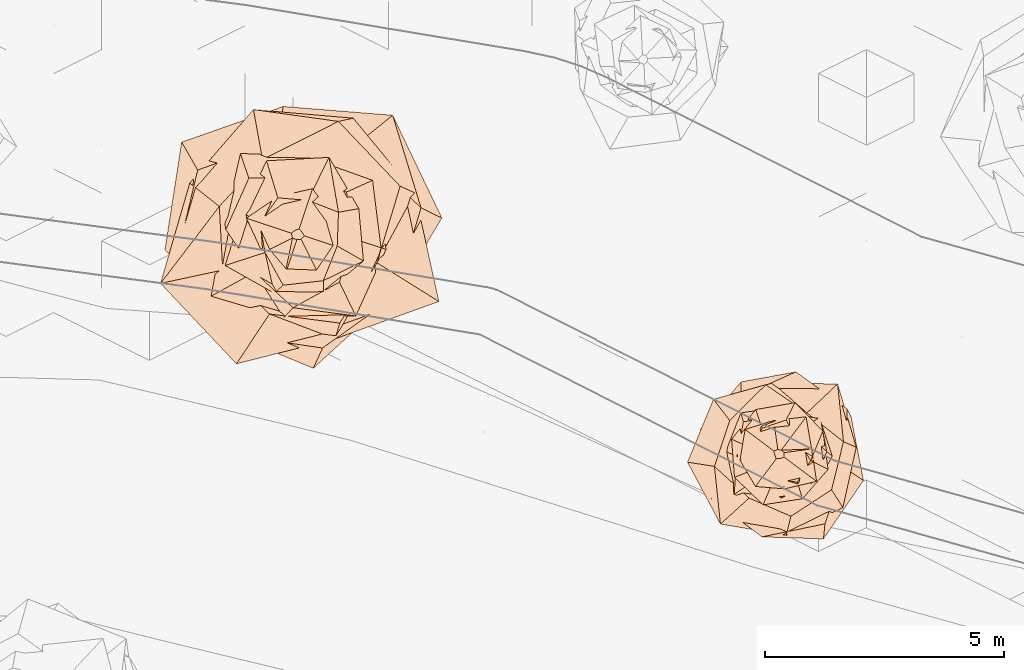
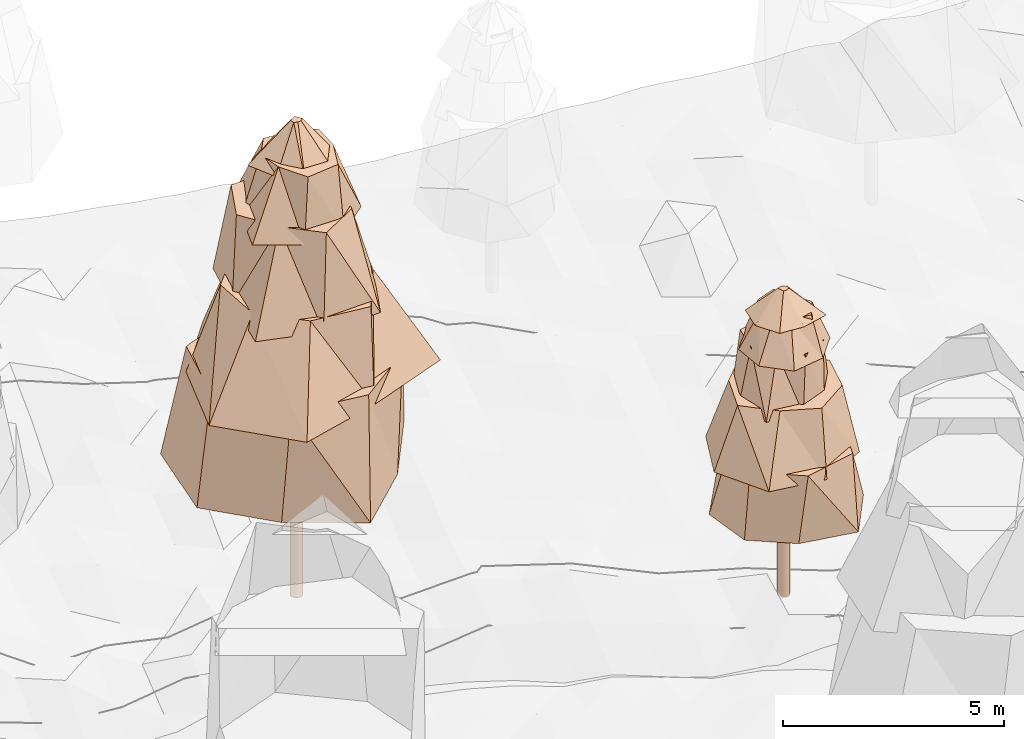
# Not in any storey, part 52 of 88: 2 geographic elements.
"""IFC4 model written with IfcOpenShell, lengths in metres."""

from ifc_helpers import new_model, si_unit, frame, origin_with_axes, place, context, subcontext, project, spatial, circle, extrude, faceted_brep, element, save


model = new_model("IFC4")

# Units and contexts
model_context = context("Model", 3, precision=1e-05, world=origin_with_axes())
body_context = subcontext(model_context, "Body", "Model", "MODEL_VIEW")
ifc_project = project(units=[si_unit("LENGTHUNIT", "METRE"), si_unit("AREAUNIT", "SQUARE_METRE"), si_unit("VOLUMEUNIT", "CUBIC_METRE"), si_unit("PLANEANGLEUNIT", "RADIAN")], contexts=[model_context])

# Sites
site_1_placement = place(None, origin_with_axes())
site_1 = spatial("IfcSite", under=ifc_project, at=site_1_placement, Name="CH907857693633", CompositionType="ELEMENT")
site_2_placement = place(None, origin_with_axes())
site_2 = spatial("IfcSite", under=site_1, at=site_2_placement, Name="Simulated_forest", CompositionType="ELEMENT")

# Geographic elements
geographic_element_1_placement = place(None, frame((134.107037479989, 99.13216391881, 2.78985595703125), z_axis=(0.0, 0.0, 1.0), x_axis=(1.0, 0.0, 0.0)))
element("IfcGeographicElement", 1, at=geographic_element_1_placement, inside=site_2, Name="Tree_SIMULATED_WOODED_AREA", ObjectType="VEGETATION", PredefinedType="USERDEFINED", context=body_context, shape_type="Brep", body=[
    extrude(circle(Radius=0.15), origin_with_axes(), (0.0, 0.0, 1.0), 3.54968005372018),
    faceted_brep([(1.80991687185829, -1.438109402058, 3.54968005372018), (0.320244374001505, -2.7975826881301, 3.54968005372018), (-1.41430292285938, -1.7799554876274, 3.54968005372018), (-2.78111739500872, -0.318359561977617, 3.54968005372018), (-2.43148507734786, 1.93199014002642, 3.54968005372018), (-0.306615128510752, 2.6785206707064, 3.54968005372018), (1.98175177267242, 2.49411203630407, 3.54968005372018), (3.01124691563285, 0.344702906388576, 3.54968005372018), (2.57570863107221, 0.559707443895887, 6.76132153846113), (1.19802192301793, 1.86324155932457, 6.76132153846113), (-0.42406961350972, 1.95151909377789, 6.76132153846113), (-2.09703816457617, 1.34834781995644, 6.76132153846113), (-2.54949465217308, -0.55401108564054, 6.76132153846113), (-1.35261639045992, -2.10367692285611, 6.76132153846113), (0.515813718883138, -2.37371480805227, 6.76132153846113), (2.02353795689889, -1.30108885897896, 6.76132153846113), (3.01124691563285, 0.344702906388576, 3.54968005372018), (1.98175177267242, 2.49411203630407, 3.54968005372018), (1.19802192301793, 1.86324155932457, 6.76132153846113), (2.57570863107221, 0.559707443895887, 6.76132153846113), (1.98175177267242, 2.49411203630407, 3.54968005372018), (-0.306615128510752, 2.6785206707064, 3.54968005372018), (-0.42406961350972, 1.95151909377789, 6.76132153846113), (1.19802192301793, 1.86324155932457, 6.76132153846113), (-0.306615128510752, 2.6785206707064, 3.54968005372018), (-2.43148507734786, 1.93199014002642, 3.54968005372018), (-2.09703816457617, 1.34834781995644, 6.76132153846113), (-0.42406961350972, 1.95151909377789, 6.76132153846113), (-2.43148507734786, 1.93199014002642, 3.54968005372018), (-2.78111739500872, -0.318359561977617, 3.54968005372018), (-2.54949465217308, -0.55401108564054, 6.76132153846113), (-2.09703816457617, 1.34834781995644, 6.76132153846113), (-2.78111739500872, -0.318359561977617, 3.54968005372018), (-1.41430292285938, -1.7799554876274, 3.54968005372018), (-1.35261639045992, -2.10367692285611, 6.76132153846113), (-2.54949465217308, -0.55401108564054, 6.76132153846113), (-1.41430292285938, -1.7799554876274, 3.54968005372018), (0.320244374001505, -2.7975826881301, 3.54968005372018), (0.515813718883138, -2.37371480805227, 6.76132153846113), (-1.35261639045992, -2.10367692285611, 6.76132153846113), (0.320244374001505, -2.7975826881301, 3.54968005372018), (1.80991687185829, -1.438109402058, 3.54968005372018), (2.02353795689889, -1.30108885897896, 6.76132153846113), (0.515813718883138, -2.37371480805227, 6.76132153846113), (1.80991687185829, -1.438109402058, 3.54968005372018), (3.01124691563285, 0.344702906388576, 3.54968005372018), (2.57570863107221, 0.559707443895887, 6.76132153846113), (2.02353795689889, -1.30108885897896, 6.76132153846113)], [[[0, 1, 2, 3, 4, 5, 6, 7]], [[8, 9, 10, 11, 12, 13, 14, 15]], [[16, 17, 18, 19]], [[20, 21, 22, 23]], [[24, 25, 26, 27]], [[28, 29, 30, 31]], [[32, 33, 34, 35]], [[36, 37, 38, 39]], [[40, 41, 42, 43]], [[44, 45, 46, 47]]]),
    faceted_brep([(2.94951133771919, -1.40194936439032, 6.27957531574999), (0.776015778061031, -2.18201417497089, 6.27957531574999), (-1.28594503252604, -2.70545395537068, 6.27957531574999), (-2.87335169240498, -1.02188440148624, 6.27957531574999), (-2.26262226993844, 1.07546013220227, 6.27957531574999), (-0.929566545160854, 2.61377079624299, 6.27957531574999), (1.15680739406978, 2.43376587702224, 6.27957531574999), (2.44817940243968, 0.870675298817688, 6.27957531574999), (2.13819836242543, 1.01104583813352, 8.75479832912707), (0.846936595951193, 2.36632585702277, 8.75479832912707), (-0.741204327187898, 1.56752722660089, 8.75479832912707), (-1.6446025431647, 0.588623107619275, 8.75479832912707), (-1.57247517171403, -0.743543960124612, 8.75479832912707), (-0.59488731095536, -1.6621046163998, 8.75479832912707), (0.876298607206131, -1.8532297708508, 8.75479832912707), (1.65452095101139, -0.592173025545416, 8.75479832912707), (2.44817940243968, 0.870675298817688, 6.27957531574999), (1.15680739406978, 2.43376587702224, 6.27957531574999), (0.846936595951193, 2.36632585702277, 8.75479832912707), (2.13819836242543, 1.01104583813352, 8.75479832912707), (1.15680739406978, 2.43376587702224, 6.27957531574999), (-0.929566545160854, 2.61377079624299, 6.27957531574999), (-0.741204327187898, 1.56752722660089, 8.75479832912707), (0.846936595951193, 2.36632585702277, 8.75479832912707), (-0.929566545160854, 2.61377079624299, 6.27957531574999), (-2.26262226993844, 1.07546013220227, 6.27957531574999), (-1.6446025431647, 0.588623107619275, 8.75479832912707), (-0.741204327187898, 1.56752722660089, 8.75479832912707), (-2.26262226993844, 1.07546013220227, 6.27957531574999), (-2.87335169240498, -1.02188440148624, 6.27957531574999), (-1.57247517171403, -0.743543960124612, 8.75479832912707), (-1.6446025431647, 0.588623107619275, 8.75479832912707), (-2.87335169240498, -1.02188440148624, 6.27957531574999), (-1.28594503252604, -2.70545395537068, 6.27957531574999), (-0.59488731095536, -1.6621046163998, 8.75479832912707), (-1.57247517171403, -0.743543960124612, 8.75479832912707), (-1.28594503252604, -2.70545395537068, 6.27957531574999), (0.776015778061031, -2.18201417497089, 6.27957531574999), (0.876298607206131, -1.8532297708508, 8.75479832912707), (-0.59488731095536, -1.6621046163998, 8.75479832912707), (0.776015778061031, -2.18201417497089, 6.27957531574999), (2.94951133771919, -1.40194936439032, 6.27957531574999), (1.65452095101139, -0.592173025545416, 8.75479832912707), (0.876298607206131, -1.8532297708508, 8.75479832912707), (2.94951133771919, -1.40194936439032, 6.27957531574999), (2.44817940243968, 0.870675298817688, 6.27957531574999), (2.13819836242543, 1.01104583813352, 8.75479832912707), (1.65452095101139, -0.592173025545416, 8.75479832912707)], [[[0, 1, 2, 3, 4, 5, 6, 7]], [[8, 9, 10, 11, 12, 13, 14, 15]], [[16, 17, 18, 19]], [[20, 21, 22, 23]], [[24, 25, 26, 27]], [[28, 29, 30, 31]], [[32, 33, 34, 35]], [[36, 37, 38, 39]], [[40, 41, 42, 43]], [[44, 45, 46, 47]]]),
    faceted_brep([(1.84311150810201, -0.312033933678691, 8.38351487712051), (1.21054277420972, -1.70396052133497, 8.38351487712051), (-0.295015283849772, -1.74258632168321, 8.38351487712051), (-1.81625968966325, -1.29032334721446, 8.38351487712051), (-1.53136500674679, 0.259256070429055, 8.38351487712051), (-1.20228956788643, 1.69234330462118, 8.38351487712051), (0.282036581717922, 1.66592416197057, 8.38351487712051), (1.65490310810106, 1.17569097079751, 8.38351487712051), (1.017979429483, 0.888686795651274, 10.9379206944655), (0.0823678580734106, 1.21467100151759, 10.9379206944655), (-1.02753301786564, 1.17702601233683, 10.9379206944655), (-1.50854625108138, 0.102295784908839, 10.9379206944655), (-0.902844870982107, -0.788175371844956, 10.9379206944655), (-0.103849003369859, -1.5314514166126, 10.9379206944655), (0.869847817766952, -0.996399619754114, 10.9379206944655), (1.12673176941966, -0.0764046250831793, 10.9379206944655), (1.65490310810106, 1.17569097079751, 8.38351487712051), (0.282036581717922, 1.66592416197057, 8.38351487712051), (0.0823678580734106, 1.21467100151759, 10.9379206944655), (1.017979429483, 0.888686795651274, 10.9379206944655), (0.282036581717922, 1.66592416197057, 8.38351487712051), (-1.20228956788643, 1.69234330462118, 8.38351487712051), (-1.02753301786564, 1.17702601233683, 10.9379206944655), (0.0823678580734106, 1.21467100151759, 10.9379206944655), (-1.20228956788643, 1.69234330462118, 8.38351487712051), (-1.53136500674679, 0.259256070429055, 8.38351487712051), (-1.50854625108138, 0.102295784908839, 10.9379206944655), (-1.02753301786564, 1.17702601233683, 10.9379206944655), (-1.53136500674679, 0.259256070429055, 8.38351487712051), (-1.81625968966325, -1.29032334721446, 8.38351487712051), (-0.902844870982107, -0.788175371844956, 10.9379206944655), (-1.50854625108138, 0.102295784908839, 10.9379206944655), (-1.81625968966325, -1.29032334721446, 8.38351487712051), (-0.295015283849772, -1.74258632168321, 8.38351487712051), (-0.103849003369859, -1.5314514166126, 10.9379206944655), (-0.902844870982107, -0.788175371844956, 10.9379206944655), (-0.295015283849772, -1.74258632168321, 8.38351487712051), (1.21054277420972, -1.70396052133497, 8.38351487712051), (0.869847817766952, -0.996399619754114, 10.9379206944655), (-0.103849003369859, -1.5314514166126, 10.9379206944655), (1.21054277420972, -1.70396052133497, 8.38351487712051), (1.84311150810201, -0.312033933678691, 8.38351487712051), (1.12673176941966, -0.0764046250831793, 10.9379206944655), (0.869847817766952, -0.996399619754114, 10.9379206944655), (1.84311150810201, -0.312033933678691, 8.38351487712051), (1.65490310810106, 1.17569097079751, 8.38351487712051), (1.017979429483, 0.888686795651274, 10.9379206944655), (1.12673176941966, -0.0764046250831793, 10.9379206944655)], [[[0, 1, 2, 3, 4, 5, 6, 7]], [[8, 9, 10, 11, 12, 13, 14, 15]], [[16, 17, 18, 19]], [[20, 21, 22, 23]], [[24, 25, 26, 27]], [[28, 29, 30, 31]], [[32, 33, 34, 35]], [[36, 37, 38, 39]], [[40, 41, 42, 43]], [[44, 45, 46, 47]]]),
    faceted_brep([(1.37094495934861, -0.553165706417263, 10.5547598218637), (0.530706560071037, -1.24867211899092, 10.5547598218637), (-0.494922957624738, -1.22659833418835, 10.5547598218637), (-1.52353570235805, -0.647528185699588, 10.5547598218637), (-1.16741492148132, 0.471042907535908, 10.5547598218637), (-0.655684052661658, 1.54272522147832, 10.5547598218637), (0.650977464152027, 1.61335791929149, 10.5547598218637), (1.27377530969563, 0.541375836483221, 10.5547598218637), (0.848935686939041, 0.465855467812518, 12.2618209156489), (0.208416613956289, 0.715318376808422, 12.2618209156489), (-0.420722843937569, 0.766689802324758, 12.2618209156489), (-0.799356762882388, 0.232902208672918, 12.2618209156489), (-0.687428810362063, -0.377228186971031, 12.2618209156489), (-0.308980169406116, -1.06046820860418, 12.2618209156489), (0.530260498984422, -0.966301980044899, 12.2618209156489), (0.822243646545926, -0.23957057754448, 12.2618209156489), (1.27377530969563, 0.541375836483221, 10.5547598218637), (0.650977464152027, 1.61335791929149, 10.5547598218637), (0.208416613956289, 0.715318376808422, 12.2618209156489), (0.848935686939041, 0.465855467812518, 12.2618209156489), (0.650977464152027, 1.61335791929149, 10.5547598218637), (-0.655684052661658, 1.54272522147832, 10.5547598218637), (-0.420722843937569, 0.766689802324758, 12.2618209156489), (0.208416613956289, 0.715318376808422, 12.2618209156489), (-0.655684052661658, 1.54272522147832, 10.5547598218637), (-1.16741492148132, 0.471042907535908, 10.5547598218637), (-0.799356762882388, 0.232902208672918, 12.2618209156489), (-0.420722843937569, 0.766689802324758, 12.2618209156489), (-1.16741492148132, 0.471042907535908, 10.5547598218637), (-1.52353570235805, -0.647528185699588, 10.5547598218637), (-0.687428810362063, -0.377228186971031, 12.2618209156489), (-0.799356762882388, 0.232902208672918, 12.2618209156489), (-1.52353570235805, -0.647528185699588, 10.5547598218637), (-0.494922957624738, -1.22659833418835, 10.5547598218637), (-0.308980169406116, -1.06046820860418, 12.2618209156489), (-0.687428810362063, -0.377228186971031, 12.2618209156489), (-0.494922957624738, -1.22659833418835, 10.5547598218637), (0.530706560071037, -1.24867211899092, 10.5547598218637), (0.530260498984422, -0.966301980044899, 12.2618209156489), (-0.308980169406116, -1.06046820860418, 12.2618209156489), (0.530706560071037, -1.24867211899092, 10.5547598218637), (1.37094495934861, -0.553165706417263, 10.5547598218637), (0.822243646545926, -0.23957057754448, 12.2618209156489), (0.530260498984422, -0.966301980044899, 12.2618209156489), (1.37094495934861, -0.553165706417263, 10.5547598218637), (1.27377530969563, 0.541375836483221, 10.5547598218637), (0.848935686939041, 0.465855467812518, 12.2618209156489), (0.822243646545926, -0.23957057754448, 12.2618209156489)], [[[0, 1, 2, 3, 4, 5, 6, 7]], [[8, 9, 10, 11, 12, 13, 14, 15]], [[16, 17, 18, 19]], [[20, 21, 22, 23]], [[24, 25, 26, 27]], [[28, 29, 30, 31]], [[32, 33, 34, 35]], [[36, 37, 38, 39]], [[40, 41, 42, 43]], [[44, 45, 46, 47]]]),
    faceted_brep([(0.921359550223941, -0.292960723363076, 12.0057617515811), (0.486850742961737, -0.940792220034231, 12.0057617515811), (-0.289633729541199, -0.910896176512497, 12.0057617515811), (-0.741552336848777, -0.383746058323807, 12.0057617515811), (-1.07746825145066, 0.342597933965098, 12.0057617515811), (-0.411624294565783, 0.795424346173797, 12.0057617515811), (0.30486201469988, 0.958789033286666, 12.0057617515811), (0.727589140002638, 0.376520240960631, 12.0057617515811), (0.0820022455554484, 0.0534376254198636, 13.1028937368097), (0.0258546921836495, 0.122590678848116, 13.1028937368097), (-0.0563538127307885, 0.0864772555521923, 13.1028937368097), (-0.138791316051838, 0.0292714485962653, 13.1028937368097), (-0.112842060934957, -0.0735347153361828, 13.1028937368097), (-0.0229370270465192, -0.108756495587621, 13.1028937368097), (0.0644637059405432, -0.0989222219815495, 13.1028937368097), (0.138238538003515, -0.029154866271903, 13.1028937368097), (0.727589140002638, 0.376520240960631, 12.0057617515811), (0.30486201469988, 0.958789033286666, 12.0057617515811), (0.0258546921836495, 0.122590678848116, 13.1028937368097), (0.0820022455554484, 0.0534376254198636, 13.1028937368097), (0.30486201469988, 0.958789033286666, 12.0057617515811), (-0.411624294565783, 0.795424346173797, 12.0057617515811), (-0.0563538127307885, 0.0864772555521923, 13.1028937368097), (0.0258546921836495, 0.122590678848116, 13.1028937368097), (-0.411624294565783, 0.795424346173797, 12.0057617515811), (-1.07746825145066, 0.342597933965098, 12.0057617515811), (-0.138791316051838, 0.0292714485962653, 13.1028937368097), (-0.0563538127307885, 0.0864772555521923, 13.1028937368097), (-1.07746825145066, 0.342597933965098, 12.0057617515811), (-0.741552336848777, -0.383746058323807, 12.0057617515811), (-0.112842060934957, -0.0735347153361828, 13.1028937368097), (-0.138791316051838, 0.0292714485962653, 13.1028937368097), (-0.741552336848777, -0.383746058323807, 12.0057617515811), (-0.289633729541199, -0.910896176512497, 12.0057617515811), (-0.0229370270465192, -0.108756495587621, 13.1028937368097), (-0.112842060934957, -0.0735347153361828, 13.1028937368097), (-0.289633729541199, -0.910896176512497, 12.0057617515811), (0.486850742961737, -0.940792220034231, 12.0057617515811), (0.0644637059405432, -0.0989222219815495, 13.1028937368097), (-0.0229370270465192, -0.108756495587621, 13.1028937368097), (0.486850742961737, -0.940792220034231, 12.0057617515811), (0.921359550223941, -0.292960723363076, 12.0057617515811), (0.138238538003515, -0.029154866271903, 13.1028937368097), (0.0644637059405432, -0.0989222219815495, 13.1028937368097), (0.921359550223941, -0.292960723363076, 12.0057617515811), (0.727589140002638, 0.376520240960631, 12.0057617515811), (0.0820022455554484, 0.0534376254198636, 13.1028937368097), (0.138238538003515, -0.029154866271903, 13.1028937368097)], [[[0, 1, 2, 3, 4, 5, 6, 7]], [[8, 9, 10, 11, 12, 13, 14, 15]], [[16, 17, 18, 19]], [[20, 21, 22, 23]], [[24, 25, 26, 27]], [[28, 29, 30, 31]], [[32, 33, 34, 35]], [[36, 37, 38, 39]], [[40, 41, 42, 43]], [[44, 45, 46, 47]]]),
])
geographic_element_2_placement = place(None, frame((144.171771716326, 94.5391412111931, 2.0565185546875), z_axis=(0.0, 0.0, 1.0), x_axis=(1.0, 0.0, 0.0)))
element("IfcGeographicElement", 2, at=geographic_element_2_placement, inside=site_2, Name="Tree_SIMULATED_WOODED_AREA", ObjectType="VEGETATION", PredefinedType="USERDEFINED", context=body_context, shape_type="Brep", body=[
    extrude(circle(Radius=0.15), origin_with_axes(), (0.0, 0.0, 1.0), 2.46073100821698),
    faceted_brep([(1.7663856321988, -0.552022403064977, 2.46073100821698), (0.929824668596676, -1.77517972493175, 2.46073100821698), (-0.469280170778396, -1.50162338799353, 2.46073100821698), (-1.46316308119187, -0.766392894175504, 2.46073100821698), (-1.64701975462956, 0.514718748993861, 2.46073100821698), (-0.790753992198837, 1.50967220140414, 2.46073100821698), (0.484737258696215, 1.55108365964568, 2.46073100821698), (1.50659971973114, 0.789144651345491, 2.46073100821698), (1.42810430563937, 0.940758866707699, 4.42988221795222), (0.353719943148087, 1.71934336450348, 4.42988221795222), (-0.794566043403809, 1.2061785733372, 4.42988221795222), (-1.23247206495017, 0.253556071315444, 4.42988221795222), (-1.4185924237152, -0.934492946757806, 4.42988221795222), (-0.356448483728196, -1.732606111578, 4.42988221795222), (0.961818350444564, -1.46007332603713, 4.42988221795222), (1.36161910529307, -0.280125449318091, 4.42988221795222), (1.50659971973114, 0.789144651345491, 2.46073100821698), (0.484737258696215, 1.55108365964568, 2.46073100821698), (0.353719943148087, 1.71934336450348, 4.42988221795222), (1.42810430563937, 0.940758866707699, 4.42988221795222), (0.484737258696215, 1.55108365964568, 2.46073100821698), (-0.790753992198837, 1.50967220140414, 2.46073100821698), (-0.794566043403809, 1.2061785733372, 4.42988221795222), (0.353719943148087, 1.71934336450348, 4.42988221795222), (-0.790753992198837, 1.50967220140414, 2.46073100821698), (-1.64701975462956, 0.514718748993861, 2.46073100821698), (-1.23247206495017, 0.253556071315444, 4.42988221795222), (-0.794566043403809, 1.2061785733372, 4.42988221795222), (-1.64701975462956, 0.514718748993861, 2.46073100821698), (-1.46316308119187, -0.766392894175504, 2.46073100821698), (-1.4185924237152, -0.934492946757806, 4.42988221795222), (-1.23247206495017, 0.253556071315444, 4.42988221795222), (-1.46316308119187, -0.766392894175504, 2.46073100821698), (-0.469280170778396, -1.50162338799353, 2.46073100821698), (-0.356448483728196, -1.732606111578, 4.42988221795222), (-1.4185924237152, -0.934492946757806, 4.42988221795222), (-0.469280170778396, -1.50162338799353, 2.46073100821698), (0.929824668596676, -1.77517972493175, 2.46073100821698), (0.961818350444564, -1.46007332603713, 4.42988221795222), (-0.356448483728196, -1.732606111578, 4.42988221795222), (0.929824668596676, -1.77517972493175, 2.46073100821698), (1.7663856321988, -0.552022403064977, 2.46073100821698), (1.36161910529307, -0.280125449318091, 4.42988221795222), (0.961818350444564, -1.46007332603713, 4.42988221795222), (1.7663856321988, -0.552022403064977, 2.46073100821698), (1.50659971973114, 0.789144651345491, 2.46073100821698), (1.42810430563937, 0.940758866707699, 4.42988221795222), (1.36161910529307, -0.280125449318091, 4.42988221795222)], [[[0, 1, 2, 3, 4, 5, 6, 7]], [[8, 9, 10, 11, 12, 13, 14, 15]], [[16, 17, 18, 19]], [[20, 21, 22, 23]], [[24, 25, 26, 27]], [[28, 29, 30, 31]], [[32, 33, 34, 35]], [[36, 37, 38, 39]], [[40, 41, 42, 43]], [[44, 45, 46, 47]]]),
    faceted_brep([(1.33667586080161, -1.11826242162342, 4.13450953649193), (0.151180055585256, -1.69924390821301, 4.13450953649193), (-1.2250355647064, -1.4643034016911, 4.13450953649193), (-1.91295686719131, -0.170193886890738, 4.13450953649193), (-1.37055551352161, 1.14660612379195, 4.13450953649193), (-0.13216079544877, 1.48546992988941, 4.13450953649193), (1.22716514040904, 1.46684891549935, 4.13450953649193), (1.61620965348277, 0.143792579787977, 4.13450953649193), (1.34894144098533, 0.257659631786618, 5.8285775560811), (0.584801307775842, 0.860953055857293, 5.8285775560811), (-0.276917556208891, 1.44976364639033, 5.8285775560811), (-1.03009143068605, 0.699688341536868, 5.8285775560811), (-1.35053303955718, -0.257963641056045, 5.8285775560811), (-0.625391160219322, -0.920710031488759, 5.8285775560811), (0.248594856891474, -1.30148406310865, 5.8285775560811), (1.10044268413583, -0.747474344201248, 5.8285775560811), (1.61620965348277, 0.143792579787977, 4.13450953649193), (1.22716514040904, 1.46684891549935, 4.13450953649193), (0.584801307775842, 0.860953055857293, 5.8285775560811), (1.34894144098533, 0.257659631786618, 5.8285775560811), (1.22716514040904, 1.46684891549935, 4.13450953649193), (-0.13216079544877, 1.48546992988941, 4.13450953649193), (-0.276917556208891, 1.44976364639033, 5.8285775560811), (0.584801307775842, 0.860953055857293, 5.8285775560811), (-0.13216079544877, 1.48546992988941, 4.13450953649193), (-1.37055551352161, 1.14660612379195, 4.13450953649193), (-1.03009143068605, 0.699688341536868, 5.8285775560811), (-0.276917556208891, 1.44976364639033, 5.8285775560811), (-1.37055551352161, 1.14660612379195, 4.13450953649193), (-1.91295686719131, -0.170193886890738, 4.13450953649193), (-1.35053303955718, -0.257963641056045, 5.8285775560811), (-1.03009143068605, 0.699688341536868, 5.8285775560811), (-1.91295686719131, -0.170193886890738, 4.13450953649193), (-1.2250355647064, -1.4643034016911, 4.13450953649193), (-0.625391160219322, -0.920710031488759, 5.8285775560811), (-1.35053303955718, -0.257963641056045, 5.8285775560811), (-1.2250355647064, -1.4643034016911, 4.13450953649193), (0.151180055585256, -1.69924390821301, 4.13450953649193), (0.248594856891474, -1.30148406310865, 5.8285775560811), (-0.625391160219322, -0.920710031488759, 5.8285775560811), (0.151180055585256, -1.69924390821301, 4.13450953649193), (1.33667586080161, -1.11826242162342, 4.13450953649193), (1.10044268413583, -0.747474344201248, 5.8285775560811), (0.248594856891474, -1.30148406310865, 5.8285775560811), (1.33667586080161, -1.11826242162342, 4.13450953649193), (1.61620965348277, 0.143792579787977, 4.13450953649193), (1.34894144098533, 0.257659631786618, 5.8285775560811), (1.10044268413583, -0.747474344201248, 5.8285775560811)], [[[0, 1, 2, 3, 4, 5, 6, 7]], [[8, 9, 10, 11, 12, 13, 14, 15]], [[16, 17, 18, 19]], [[20, 21, 22, 23]], [[24, 25, 26, 27]], [[28, 29, 30, 31]], [[32, 33, 34, 35]], [[36, 37, 38, 39]], [[40, 41, 42, 43]], [[44, 45, 46, 47]]]),
    faceted_brep([(1.13611164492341, -0.0579142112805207, 5.57446735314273), (0.651524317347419, -0.721516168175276, 5.57446735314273), (-0.0500097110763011, -0.981047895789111, 5.57446735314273), (-0.937623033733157, -0.846667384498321, 5.57446735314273), (-1.13504604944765, 0.0578598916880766, 5.57446735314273), (-0.809226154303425, 0.896159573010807, 5.57446735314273), (0.0515192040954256, 1.01065984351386, 5.57446735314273), (0.858419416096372, 0.775147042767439, 5.57446735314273), (0.481027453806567, 0.530711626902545, 7.14360353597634), (-0.0389699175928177, 0.793560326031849, 7.14360353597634), (-0.744192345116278, 0.674522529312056, 7.14360353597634), (-0.88058323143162, -0.0432434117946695, 7.14360353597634), (-0.476591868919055, -0.525817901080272, 7.14360353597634), (0.0451288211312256, -0.918976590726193, 7.14360353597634), (0.681600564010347, -0.617790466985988, 7.14360353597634), (1.00060955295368, 0.0491376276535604, 7.14360353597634), (0.858419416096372, 0.775147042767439, 5.57446735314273), (0.0515192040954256, 1.01065984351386, 5.57446735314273), (-0.0389699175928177, 0.793560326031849, 7.14360353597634), (0.481027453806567, 0.530711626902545, 7.14360353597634), (0.0515192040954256, 1.01065984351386, 5.57446735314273), (-0.809226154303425, 0.896159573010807, 5.57446735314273), (-0.744192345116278, 0.674522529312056, 7.14360353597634), (-0.0389699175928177, 0.793560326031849, 7.14360353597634), (-0.809226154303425, 0.896159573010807, 5.57446735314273), (-1.13504604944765, 0.0578598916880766, 5.57446735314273), (-0.88058323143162, -0.0432434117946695, 7.14360353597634), (-0.744192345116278, 0.674522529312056, 7.14360353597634), (-1.13504604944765, 0.0578598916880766, 5.57446735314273), (-0.937623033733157, -0.846667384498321, 5.57446735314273), (-0.476591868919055, -0.525817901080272, 7.14360353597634), (-0.88058323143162, -0.0432434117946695, 7.14360353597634), (-0.937623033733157, -0.846667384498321, 5.57446735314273), (-0.0500097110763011, -0.981047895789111, 5.57446735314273), (0.0451288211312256, -0.918976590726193, 7.14360353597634), (-0.476591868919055, -0.525817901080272, 7.14360353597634), (-0.0500097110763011, -0.981047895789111, 5.57446735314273), (0.651524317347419, -0.721516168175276, 5.57446735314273), (0.681600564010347, -0.617790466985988, 7.14360353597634), (0.0451288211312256, -0.918976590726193, 7.14360353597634), (0.651524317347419, -0.721516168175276, 5.57446735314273), (1.13611164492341, -0.0579142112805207, 5.57446735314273), (1.00060955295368, 0.0491376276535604, 7.14360353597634), (0.681600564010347, -0.617790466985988, 7.14360353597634), (1.13611164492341, -0.0579142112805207, 5.57446735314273), (0.858419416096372, 0.775147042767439, 5.57446735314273), (0.481027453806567, 0.530711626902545, 7.14360353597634), (1.00060955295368, 0.0491376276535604, 7.14360353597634)], [[[0, 1, 2, 3, 4, 5, 6, 7]], [[8, 9, 10, 11, 12, 13, 14, 15]], [[16, 17, 18, 19]], [[20, 21, 22, 23]], [[24, 25, 26, 27]], [[28, 29, 30, 31]], [[32, 33, 34, 35]], [[36, 37, 38, 39]], [[40, 41, 42, 43]], [[44, 45, 46, 47]]]),
    faceted_brep([(1.0266397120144, -0.321129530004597, 6.90823310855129), (0.489889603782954, -0.935859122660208, 6.90823310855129), (-0.332224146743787, -1.06210880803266, 6.90823310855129), (-0.930538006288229, -0.487104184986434, 6.90823310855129), (-0.992455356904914, 0.310436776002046, 6.90823310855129), (-0.48697549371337, 0.930292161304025, 6.90823310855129), (0.336363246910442, 1.07534136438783, 6.90823310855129), (0.918207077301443, 0.480649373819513, 6.90823310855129), (0.409550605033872, 0.269639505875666, 7.92332727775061), (0.146792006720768, 0.712593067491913, 7.92332727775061), (-0.355516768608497, 0.539988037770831, 7.92332727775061), (-0.555030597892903, 0.114334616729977, 7.92332727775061), (-0.43028403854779, -0.283289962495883, 7.92332727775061), (-0.108881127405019, -0.528556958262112, 7.92332727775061), (0.385339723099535, -0.585285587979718, 7.92332727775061), (0.663338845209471, -0.136645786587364, 7.92332727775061), (0.918207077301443, 0.480649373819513, 6.90823310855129), (0.336363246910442, 1.07534136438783, 6.90823310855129), (0.146792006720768, 0.712593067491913, 7.92332727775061), (0.409550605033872, 0.269639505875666, 7.92332727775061), (0.336363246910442, 1.07534136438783, 6.90823310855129), (-0.48697549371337, 0.930292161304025, 6.90823310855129), (-0.355516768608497, 0.539988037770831, 7.92332727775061), (0.146792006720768, 0.712593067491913, 7.92332727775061), (-0.48697549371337, 0.930292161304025, 6.90823310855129), (-0.992455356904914, 0.310436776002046, 6.90823310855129), (-0.555030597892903, 0.114334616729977, 7.92332727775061), (-0.355516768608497, 0.539988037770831, 7.92332727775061), (-0.992455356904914, 0.310436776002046, 6.90823310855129), (-0.930538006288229, -0.487104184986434, 6.90823310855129), (-0.43028403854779, -0.283289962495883, 7.92332727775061), (-0.555030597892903, 0.114334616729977, 7.92332727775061), (-0.930538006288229, -0.487104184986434, 6.90823310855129), (-0.332224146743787, -1.06210880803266, 6.90823310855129), (-0.108881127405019, -0.528556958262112, 7.92332727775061), (-0.43028403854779, -0.283289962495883, 7.92332727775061), (-0.332224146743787, -1.06210880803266, 6.90823310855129), (0.489889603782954, -0.935859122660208, 6.90823310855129), (0.385339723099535, -0.585285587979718, 7.92332727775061), (-0.108881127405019, -0.528556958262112, 7.92332727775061), (0.489889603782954, -0.935859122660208, 6.90823310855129), (1.0266397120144, -0.321129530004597, 6.90823310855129), (0.663338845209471, -0.136645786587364, 7.92332727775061), (0.385339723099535, -0.585285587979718, 7.92332727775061), (1.0266397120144, -0.321129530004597, 6.90823310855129), (0.918207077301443, 0.480649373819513, 6.90823310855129), (0.409550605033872, 0.269639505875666, 7.92332727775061), (0.663338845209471, -0.136645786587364, 7.92332727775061)], [[[0, 1, 2, 3, 4, 5, 6, 7]], [[8, 9, 10, 11, 12, 13, 14, 15]], [[16, 17, 18, 19]], [[20, 21, 22, 23]], [[24, 25, 26, 27]], [[28, 29, 30, 31]], [[32, 33, 34, 35]], [[36, 37, 38, 39]], [[40, 41, 42, 43]], [[44, 45, 46, 47]]]),
    faceted_brep([(0.786794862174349, -0.571746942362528, 7.77106315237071), (0.115269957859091, -0.728205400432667, 7.77106315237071), (-0.49224641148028, -0.677392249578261, 7.77106315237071), (-0.816092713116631, -0.129181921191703, 7.77106315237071), (-0.708517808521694, 0.514864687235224, 7.77106315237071), (-0.111086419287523, 0.701776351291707, 7.77106315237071), (0.566259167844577, 0.779243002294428, 7.77106315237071), (0.681308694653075, 0.107846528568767, 7.77106315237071), (0.110362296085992, 0.0290034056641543, 8.43865748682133), (0.0469880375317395, 0.0804893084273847, 8.43865748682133), (-0.0247551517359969, 0.0941970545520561, 8.43865748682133), (-0.110405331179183, 0.0644524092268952, 8.43865748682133), (-0.0851712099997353, -0.0223831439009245, 8.43865748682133), (-0.057641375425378, -0.0987382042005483, 8.43865748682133), (0.0251933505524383, -0.0958644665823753, 8.43865748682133), (0.105022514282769, -0.0613100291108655, 8.43865748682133), (0.681308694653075, 0.107846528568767, 7.77106315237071), (0.566259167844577, 0.779243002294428, 7.77106315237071), (0.0469880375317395, 0.0804893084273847, 8.43865748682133), (0.110362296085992, 0.0290034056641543, 8.43865748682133), (0.566259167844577, 0.779243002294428, 7.77106315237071), (-0.111086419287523, 0.701776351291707, 7.77106315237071), (-0.0247551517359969, 0.0941970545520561, 8.43865748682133), (0.0469880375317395, 0.0804893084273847, 8.43865748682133), (-0.111086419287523, 0.701776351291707, 7.77106315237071), (-0.708517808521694, 0.514864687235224, 7.77106315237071), (-0.110405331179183, 0.0644524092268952, 8.43865748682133), (-0.0247551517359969, 0.0941970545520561, 8.43865748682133), (-0.708517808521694, 0.514864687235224, 7.77106315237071), (-0.816092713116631, -0.129181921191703, 7.77106315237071), (-0.0851712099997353, -0.0223831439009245, 8.43865748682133), (-0.110405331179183, 0.0644524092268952, 8.43865748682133), (-0.816092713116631, -0.129181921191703, 7.77106315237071), (-0.49224641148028, -0.677392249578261, 7.77106315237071), (-0.057641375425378, -0.0987382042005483, 8.43865748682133), (-0.0851712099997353, -0.0223831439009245, 8.43865748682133), (-0.49224641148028, -0.677392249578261, 7.77106315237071), (0.115269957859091, -0.728205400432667, 7.77106315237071), (0.0251933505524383, -0.0958644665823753, 8.43865748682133), (-0.057641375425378, -0.0987382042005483, 8.43865748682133), (0.115269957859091, -0.728205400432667, 7.77106315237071), (0.786794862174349, -0.571746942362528, 7.77106315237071), (0.105022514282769, -0.0613100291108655, 8.43865748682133), (0.0251933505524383, -0.0958644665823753, 8.43865748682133), (0.786794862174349, -0.571746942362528, 7.77106315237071), (0.681308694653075, 0.107846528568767, 7.77106315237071), (0.110362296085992, 0.0290034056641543, 8.43865748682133), (0.105022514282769, -0.0613100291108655, 8.43865748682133)], [[[0, 1, 2, 3, 4, 5, 6, 7]], [[8, 9, 10, 11, 12, 13, 14, 15]], [[16, 17, 18, 19]], [[20, 21, 22, 23]], [[24, 25, 26, 27]], [[28, 29, 30, 31]], [[32, 33, 34, 35]], [[36, 37, 38, 39]], [[40, 41, 42, 43]], [[44, 45, 46, 47]]]),
])

save(model, "model.ifc")
